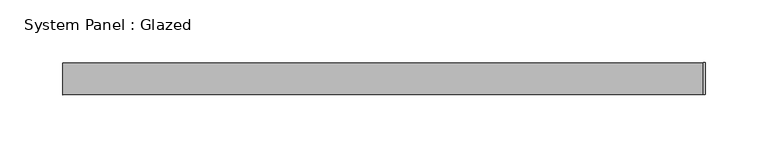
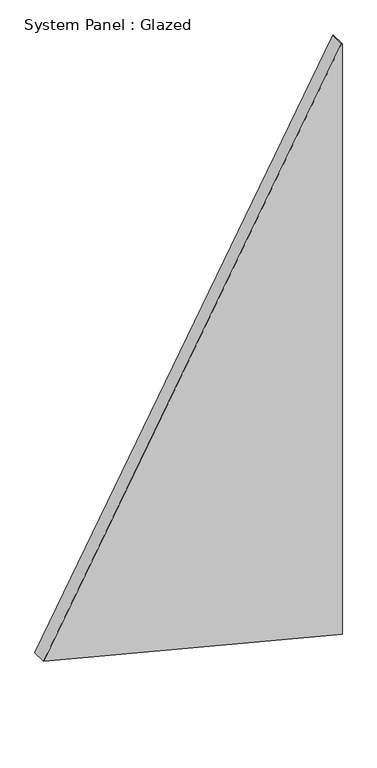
"""IFC4 building model written with IfcOpenShell, lengths in millimetres: plate geometry, System Panel : Glazed."""

from ifc_helpers import new_model, si_unit, frame, origin, place, context, project, spatial, polyline, outline, extrude, source, transform, mapped, element, save


def system_panel_glazed_2ed1c17a(model_context):
    return source(origin(), model_context, "Body", "SweptSolid", [
        extrude(outline(polyline([(129.6824588, -254.8911558), (0.0, 254.8862014), (1064.2696958, 254.8911558), (1064.5796524, 253.6727269), (129.6824588, -254.8911558)])), frame((0.0, -44.45, 0.0), z_axis=(0.0, 1.0, 0.0), x_axis=(0.0, 0.0, 1.0)), (0.0, 0.0, 1.0), 25.4),
    ])


if __name__ == "__main__":
    model = new_model("IFC4")
    model_context = context("Model", 3, world=origin())
    ifc_project = project(units=[si_unit("LENGTHUNIT", "METRE", prefix="MILLI")], contexts=[model_context])
    site = spatial("IfcSite", under=ifc_project)
    building = spatial("IfcBuilding", under=site)
    placement = place(None, origin())
    system_panel_glazed_shape = system_panel_glazed_2ed1c17a(model_context)
    element("IfcPlate", 1, ObjectType="System Panel : Glazed", at=placement, inside=building, context=model_context, shape_type="MappedRepresentation", body=[
        mapped(system_panel_glazed_shape, transform((0.0, 0.0, 0.0), x_axis=(1.0, 0.0, 0.0), y_axis=(0.0, 1.0, 0.0), z_axis=(0.0, 0.0, 1.0))),
    ])
    save(model, "model.ifc")
